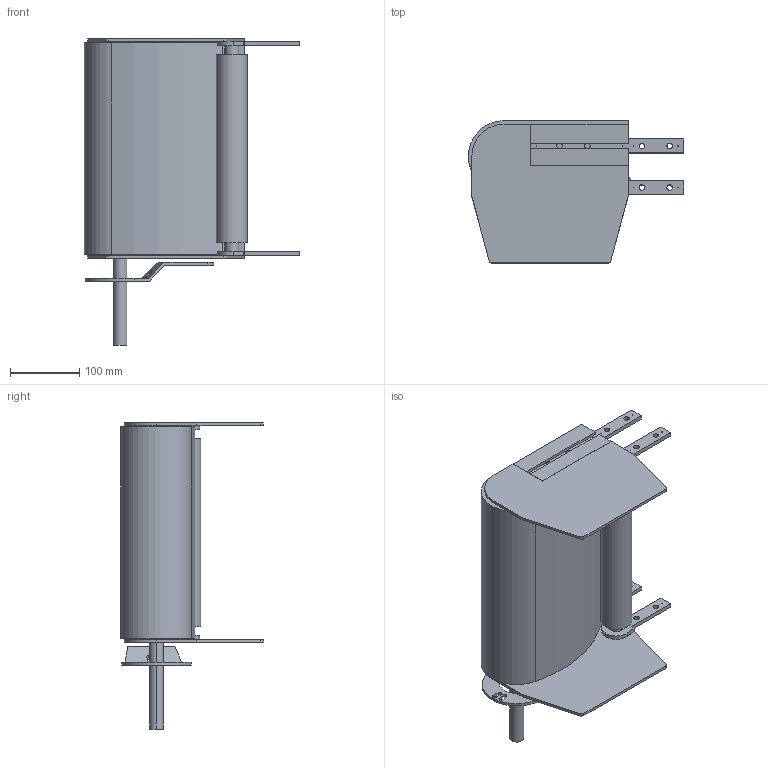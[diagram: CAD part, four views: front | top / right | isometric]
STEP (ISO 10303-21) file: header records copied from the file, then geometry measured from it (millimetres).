
FILE_DESCRIPTION (( 'STEP AP214' ), '1' );
FILE_NAME ('FS-320-MTS-100.ALU Right Drive section 20.STEP', '2017-02-08T09:47:35', ( '' ), ( '' ), 'SwSTEP 2.0', 'SolidWorks 2016', '' );
FILE_SCHEMA (( 'AUTOMOTIVE_DESIGN' ));
Length unit declared in the file: millimetre
Products named in the file (1): FS-320-MTS-100.ALU Right Drive section 20
Bounding box: 309.96 x 205 x 441 mm (x, y, z)
Volume: 2556354.7 mm3; surface area: 657316.3 mm2
Topology: 3 solids, 3 shells, 236 faces, 689 edges, 456 vertices
Faces by surface type: plane 131, cylinder 105
Entity records: 8035 total; most frequent: CARTESIAN_POINT 1406, ORIENTED_EDGE 1378, DIRECTION 1357, EDGE_CURVE 689, LINE 479, VECTOR 479, VERTEX_POINT 456, AXIS2_PLACEMENT_3D 439
